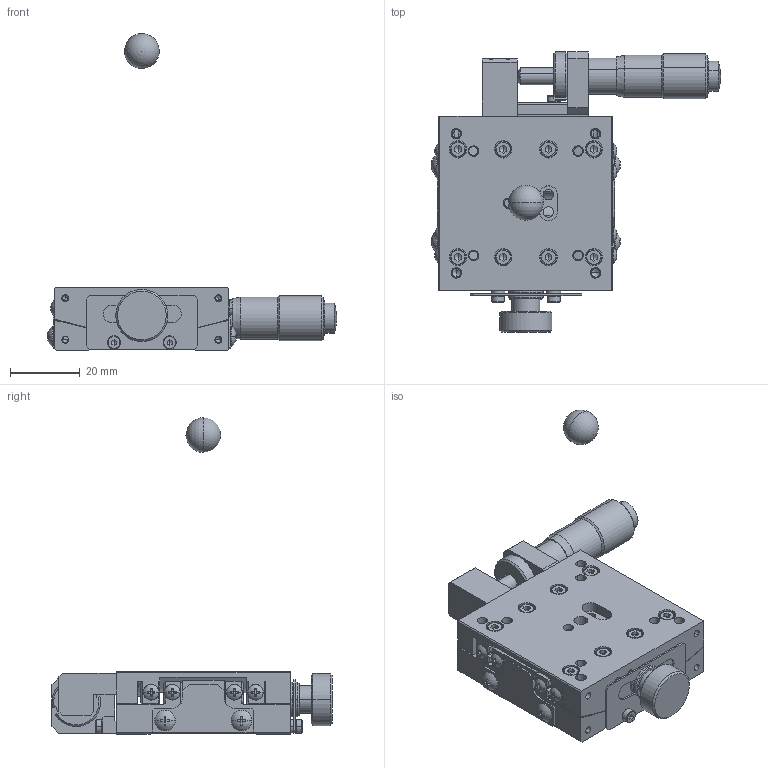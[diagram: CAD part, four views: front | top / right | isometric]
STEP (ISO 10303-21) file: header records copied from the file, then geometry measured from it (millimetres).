
FILE_DESCRIPTION (( 'STEP AP214' ), '1' );
FILE_NAME ('ST05A-S1M-R.STEP', '2007-01-19T00:27:38', ( ' ' ), ( ' ' ), 'SwSTEP 2.0', 'SolidWorks 2006052', '' );
FILE_SCHEMA (( 'AUTOMOTIVE_DESIGN' ));
Length unit declared in the file: millimetre
Products named in the file (5): ST05A-S1M-R; MICROMETERHEAD(MHS4-13)spindle-4; 002570-1020(3D)-2; ST05A-S1M-R-Part-1-1; 002570-1010(3D)-2
Assembly tree (4 placements, depth 2):
  ST05A-S1M-R
    MICROMETERHEAD(MHS4-13)spindle-4
    002570-1010(3D)-2
    ST05A-S1M-R-Part-1-1
    002570-1020(3D)-2
Bounding box: 83.18 x 80.5 x 91 mm (x, y, z)
Volume: 47005 mm3; surface area: 32767.5 mm2
Topology: 4 solids, 38 shells, 1771 faces, 4318 edges, 2587 vertices
Faces by surface type: plane 770, cylinder 573, cone 330, torus 68, sphere 30
Entity records: 54744 total; most frequent: CARTESIAN_POINT 13038, DIRECTION 9027, ORIENTED_EDGE 8422, EDGE_CURVE 4211, AXIS2_PLACEMENT_3D 3482, VERTEX_POINT 2584, VECTOR 2063, LINE 2063
